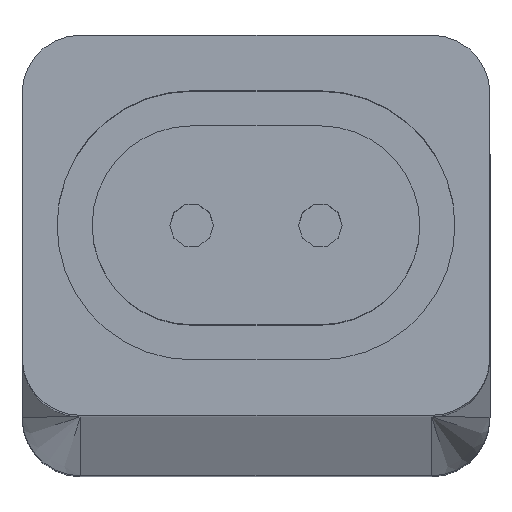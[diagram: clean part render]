
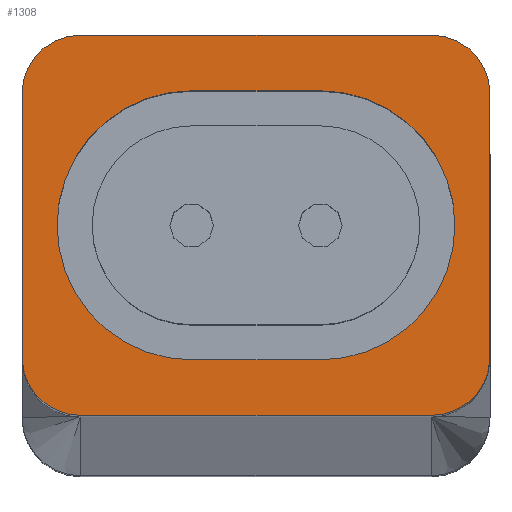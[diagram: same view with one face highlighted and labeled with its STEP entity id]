
A CAD part, top view. The second image highlights one B-rep face of the part: STEP entity #1308.
In plain terms, the highlighted planar face has unit normal (0, 0, 1).
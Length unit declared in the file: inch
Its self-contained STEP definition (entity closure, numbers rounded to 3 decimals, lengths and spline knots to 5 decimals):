
#51=FACE_BOUND('',#223,.T.);
#62=CIRCLE('',#1468,4.6);
#64=CIRCLE('',#1472,4.6);
#65=CIRCLE('',#1475,2.);
#67=CIRCLE('',#1478,2.);
#69=CIRCLE('',#1481,2.);
#71=CIRCLE('',#1484,2.);
#140=FACE_OUTER_BOUND('',#222,.T.);
#222=EDGE_LOOP('',(#921,#922,#923,#924,#925,#926,#927,#928));
#223=EDGE_LOOP('',(#929,#930,#931,#932));
#306=LINE('',#2012,#442);
#310=LINE('',#2021,#446);
#312=LINE('',#2027,#448);
#319=LINE('',#2045,#455);
#322=LINE('',#2054,#458);
#325=LINE('',#2074,#461);
#442=VECTOR('',#1605,10.);
#446=VECTOR('',#1611,10.);
#448=VECTOR('',#1615,10.);
#455=VECTOR('',#1630,10.);
#458=VECTOR('',#1641,10.);
#461=VECTOR('',#1670,10.);
#576=VERTEX_POINT('',#2006);
#578=VERTEX_POINT('',#2010);
#580=VERTEX_POINT('',#2015);
#582=VERTEX_POINT('',#2019);
#583=VERTEX_POINT('',#2023);
#585=VERTEX_POINT('',#2026);
#589=VERTEX_POINT('',#2035);
#590=VERTEX_POINT('',#2037);
#592=VERTEX_POINT('',#2043);
#594=VERTEX_POINT('',#2049);
#596=VERTEX_POINT('',#2057);
#597=VERTEX_POINT('',#2068);
#696=EDGE_CURVE('',#576,#578,#306,.T.);
#700=EDGE_CURVE('',#580,#582,#310,.T.);
#702=EDGE_CURVE('',#585,#583,#312,.T.);
#707=EDGE_CURVE('',#590,#589,#62,.T.);
#711=EDGE_CURVE('',#589,#592,#319,.T.);
#714=EDGE_CURVE('',#592,#594,#64,.T.);
#716=EDGE_CURVE('',#594,#590,#322,.T.);
#718=EDGE_CURVE('',#583,#596,#65,.T.);
#720=EDGE_CURVE('',#582,#585,#67,.T.);
#722=EDGE_CURVE('',#578,#580,#69,.T.);
#724=EDGE_CURVE('',#597,#576,#71,.T.);
#727=EDGE_CURVE('',#596,#597,#325,.T.);
#921=ORIENTED_EDGE('',*,*,#724,.T.);
#922=ORIENTED_EDGE('',*,*,#696,.T.);
#923=ORIENTED_EDGE('',*,*,#722,.T.);
#924=ORIENTED_EDGE('',*,*,#700,.T.);
#925=ORIENTED_EDGE('',*,*,#720,.T.);
#926=ORIENTED_EDGE('',*,*,#702,.T.);
#927=ORIENTED_EDGE('',*,*,#718,.T.);
#928=ORIENTED_EDGE('',*,*,#727,.T.);
#929=ORIENTED_EDGE('',*,*,#707,.T.);
#930=ORIENTED_EDGE('',*,*,#711,.T.);
#931=ORIENTED_EDGE('',*,*,#714,.T.);
#932=ORIENTED_EDGE('',*,*,#716,.T.);
#1250=PLANE('',#1486);
#1308=ADVANCED_FACE('',(#140,#51),#1250,.T.);
#1468=AXIS2_PLACEMENT_3D('',#2038,#1623,#1624);
#1472=AXIS2_PLACEMENT_3D('',#2051,#1636,#1637);
#1475=AXIS2_PLACEMENT_3D('',#2059,#1645,#1646);
#1478=AXIS2_PLACEMENT_3D('',#2062,#1651,#1652);
#1481=AXIS2_PLACEMENT_3D('',#2065,#1657,#1658);
#1484=AXIS2_PLACEMENT_3D('',#2069,#1663,#1664);
#1486=AXIS2_PLACEMENT_3D('',#2073,#1668,#1669);
#1605=DIRECTION('',(1.,0.,0.));
#1611=DIRECTION('',(0.,1.,0.));
#1615=DIRECTION('',(-1.,0.,0.));
#1623=DIRECTION('center_axis',(0.,0.,-1.));
#1624=DIRECTION('ref_axis',(0.,1.,0.));
#1630=DIRECTION('',(-1.,0.,0.));
#1636=DIRECTION('center_axis',(0.,0.,-1.));
#1637=DIRECTION('ref_axis',(0.,-1.,0.));
#1641=DIRECTION('',(1.,0.,0.));
#1645=DIRECTION('center_axis',(0.,0.,1.));
#1646=DIRECTION('ref_axis',(0.,1.,0.));
#1651=DIRECTION('center_axis',(0.,0.,1.));
#1652=DIRECTION('ref_axis',(1.,0.,0.));
#1657=DIRECTION('center_axis',(0.,0.,1.));
#1658=DIRECTION('ref_axis',(0.,-1.,0.));
#1663=DIRECTION('center_axis',(0.,0.,1.));
#1664=DIRECTION('ref_axis',(-1.,0.,0.));
#1668=DIRECTION('center_axis',(0.,0.,1.));
#1669=DIRECTION('ref_axis',(1.,0.,0.));
#1670=DIRECTION('',(0.,-1.,0.));
#2006=CARTESIAN_POINT('',(-6.,-23.832,578.32));
#2010=CARTESIAN_POINT('',(6.,-23.832,578.32));
#2012=CARTESIAN_POINT('',(-6.,-23.832,578.32));
#2015=CARTESIAN_POINT('',(8.,-21.832,578.32));
#2019=CARTESIAN_POINT('',(8.,-12.832,578.32));
#2021=CARTESIAN_POINT('',(8.,-21.832,578.32));
#2023=CARTESIAN_POINT('',(-6.,-10.832,578.32));
#2026=CARTESIAN_POINT('',(6.,-10.832,578.32));
#2027=CARTESIAN_POINT('',(6.,-10.832,578.32));
#2035=CARTESIAN_POINT('',(2.2,-21.932,578.32));
#2037=CARTESIAN_POINT('',(2.2,-12.732,578.32));
#2038=CARTESIAN_POINT('Origin',(2.2,-17.332,578.32));
#2043=CARTESIAN_POINT('',(-2.2,-21.932,578.32));
#2045=CARTESIAN_POINT('',(-1.1,-21.932,578.32));
#2049=CARTESIAN_POINT('',(-2.2,-12.732,578.32));
#2051=CARTESIAN_POINT('Origin',(-2.2,-17.332,578.32));
#2054=CARTESIAN_POINT('',(1.1,-12.732,578.32));
#2057=CARTESIAN_POINT('',(-8.,-12.832,578.32));
#2059=CARTESIAN_POINT('Origin',(-6.,-12.832,578.32));
#2062=CARTESIAN_POINT('Origin',(6.,-12.832,578.32));
#2065=CARTESIAN_POINT('Origin',(6.,-21.832,578.32));
#2068=CARTESIAN_POINT('',(-8.,-21.832,578.32));
#2069=CARTESIAN_POINT('Origin',(-6.,-21.832,578.32));
#2073=CARTESIAN_POINT('Origin',(0.,-17.332,578.32));
#2074=CARTESIAN_POINT('',(-8.,-12.832,578.32));
